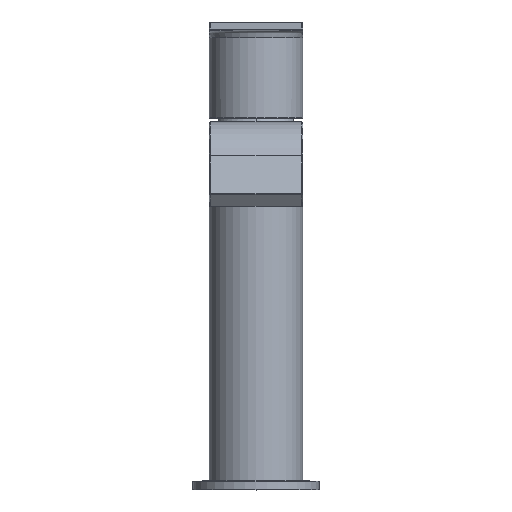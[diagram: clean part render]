
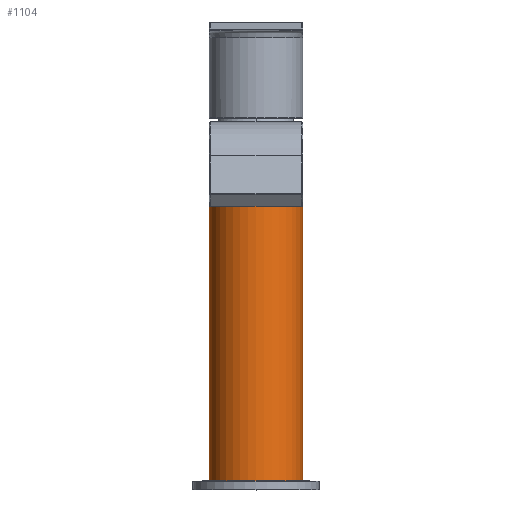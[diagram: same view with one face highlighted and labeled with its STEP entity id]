
A CAD part, top view. The second image highlights one B-rep face of the part: STEP entity #1104.
In plain terms, the highlighted cylindrical face has radius 18 mm (diameter 36 mm), a partial arc.
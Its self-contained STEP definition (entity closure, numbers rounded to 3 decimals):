
#203=CARTESIAN_POINT('',(0.,115.,0.));
#204=DIRECTION('',(0.,-1.,0.));
#205=DIRECTION('',(1.,0.,0.));
#206=AXIS2_PLACEMENT_3D('',#203,#204,#205);
#302=DIRECTION('',(0.,1.,0.));
#303=VECTOR('',#302,113.);
#304=CARTESIAN_POINT('',(18.,2.,0.));
#305=LINE('',#304,#303);
#382=CARTESIAN_POINT('',(0.,2.,0.));
#383=DIRECTION('',(0.,-1.,0.));
#384=DIRECTION('',(1.,0.,0.));
#385=AXIS2_PLACEMENT_3D('',#382,#383,#384);
#387=DIRECTION('',(0.,1.,0.));
#388=VECTOR('',#387,113.);
#389=CARTESIAN_POINT('',(-18.,2.,0.));
#390=LINE('',#389,#388);
#391=CARTESIAN_POINT('',(18.,2.,0.));
#392=CARTESIAN_POINT('',(-18.,2.,0.));
#393=VERTEX_POINT('',#391);
#394=VERTEX_POINT('',#392);
#395=CARTESIAN_POINT('',(18.,115.,0.));
#396=VERTEX_POINT('',#395);
#397=CARTESIAN_POINT('',(-18.,115.,0.));
#398=VERTEX_POINT('',#397);
#1092=CARTESIAN_POINT('',(0.,0.,0.));
#1093=DIRECTION('',(0.,1.,0.));
#1094=DIRECTION('',(1.,0.,0.));
#1095=AXIS2_PLACEMENT_3D('',#1092,#1093,#1094);
#1096=CYLINDRICAL_SURFACE('',#1095,18.);
#1097=ORIENTED_EDGE('',*,*,#769,.F.);
#1098=ORIENTED_EDGE('',*,*,#942,.F.);
#1100=ORIENTED_EDGE('',*,*,#1099,.T.);
#1101=ORIENTED_EDGE('',*,*,#938,.T.);
#1102=EDGE_LOOP('',(#1097,#1098,#1100,#1101));
#1103=FACE_OUTER_BOUND('',#1102,.F.);
#1104=ADVANCED_FACE('',(#1103),#1096,.T.);
#207=CIRCLE('',#206,18.);
#386=CIRCLE('',#385,18.);
#769=EDGE_CURVE('',#396,#398,#207,.T.);
#938=EDGE_CURVE('',#394,#398,#390,.T.);
#942=EDGE_CURVE('',#393,#396,#305,.T.);
#1099=EDGE_CURVE('',#393,#394,#386,.T.);
